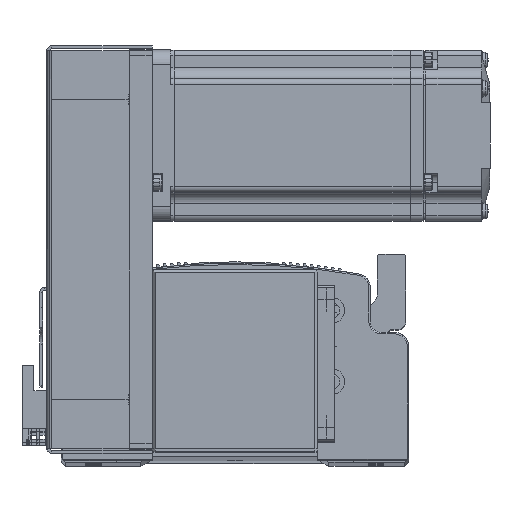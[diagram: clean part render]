
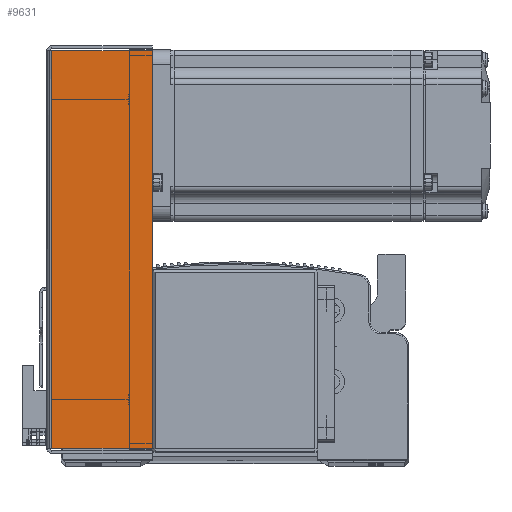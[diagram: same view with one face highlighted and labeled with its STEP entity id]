
A CAD part, top view. The second image highlights one B-rep face of the part: STEP entity #9631.
In plain terms, the highlighted planar face has unit normal (0, 0, 1) as drawn and (0, 0, -1) by its records, which use the part's own axes.
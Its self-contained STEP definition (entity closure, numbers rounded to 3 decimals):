
#9631 = ADVANCED_FACE ( 'NONE', ( #63790 ), #66726, .F. ) ;
#18283 = VERTEX_POINT ( 'NONE', #45019 ) ;
#18298 = VERTEX_POINT ( 'NONE', #45001 ) ;
#18309 = VERTEX_POINT ( 'NONE', #45012 ) ;
#22397 = AXIS2_PLACEMENT_3D ( 'NONE', #66766, #66728, #66731 ) ;
#29290 = EDGE_LOOP ( 'NONE', ( #61708, #61727, #61725, #61736 ) ) ;
#40614 = CARTESIAN_POINT ( 'NONE',  ( 69.793, 0.737, -33.5 ) ) ;
#45001 = CARTESIAN_POINT ( 'NONE',  ( -69.793, 36., -33.5 ) ) ;
#45012 = CARTESIAN_POINT ( 'NONE',  ( 69.793, 36., -33.5 ) ) ;
#45019 = CARTESIAN_POINT ( 'NONE',  ( -69.793, 0.737, -33.5 ) ) ;
#55609 = VERTEX_POINT ( 'NONE', #40614 ) ;
#61708 = ORIENTED_EDGE ( 'NONE', *, *, #62467, .F. ) ;
#61725 = ORIENTED_EDGE ( 'NONE', *, *, #62499, .T. ) ;
#61727 = ORIENTED_EDGE ( 'NONE', *, *, #62487, .T. ) ;
#61736 = ORIENTED_EDGE ( 'NONE', *, *, #62416, .F. ) ;
#62416 = EDGE_CURVE ( 'NONE', #55609, #18309, #81518, .T. ) ;
#62467 = EDGE_CURVE ( 'NONE', #18283, #55609, #81603, .T. ) ;
#62487 = EDGE_CURVE ( 'NONE', #18283, #18298, #81673, .T. ) ;
#62499 = EDGE_CURVE ( 'NONE', #18298, #18309, #81652, .T. ) ;
#63790 = FACE_OUTER_BOUND ( 'NONE', #29290, .T. ) ;
#66726 = PLANE ( 'NONE',  #22397 ) ;
#66728 = DIRECTION ( 'NONE',  ( 0., 0., 1. ) ) ;
#66731 = DIRECTION ( 'NONE',  ( 0., -1., 0. ) ) ;
#66766 = CARTESIAN_POINT ( 'NONE',  ( 0., 0., -33.5 ) ) ;
#80273 = DIRECTION ( 'NONE',  ( 0., 1., 0. ) ) ;
#80279 = CARTESIAN_POINT ( 'NONE',  ( 69.793, 0., -33.5 ) ) ;
#80483 = CARTESIAN_POINT ( 'NONE',  ( 71.5, 0.737, -33.5 ) ) ;
#80512 = DIRECTION ( 'NONE',  ( 1., 0., 0. ) ) ;
#80553 = CARTESIAN_POINT ( 'NONE',  ( -69.793, 0., -33.5 ) ) ;
#80564 = DIRECTION ( 'NONE',  ( 0., 1., 0. ) ) ;
#80583 = CARTESIAN_POINT ( 'NONE',  ( 0., 36., -33.5 ) ) ;
#80604 = DIRECTION ( 'NONE',  ( 1., 0., 0. ) ) ;
#81511 = VECTOR ( 'NONE', #80273, 1000. ) ;
#81518 = LINE ( 'NONE', #80279, #81511 ) ;
#81603 = LINE ( 'NONE', #80483, #81604 ) ;
#81604 = VECTOR ( 'NONE', #80512, 1000. ) ;
#81644 = VECTOR ( 'NONE', #80604, 1000. ) ;
#81652 = LINE ( 'NONE', #80583, #81644 ) ;
#81673 = LINE ( 'NONE', #80553, #81698 ) ;
#81698 = VECTOR ( 'NONE', #80564, 1000. ) ;
